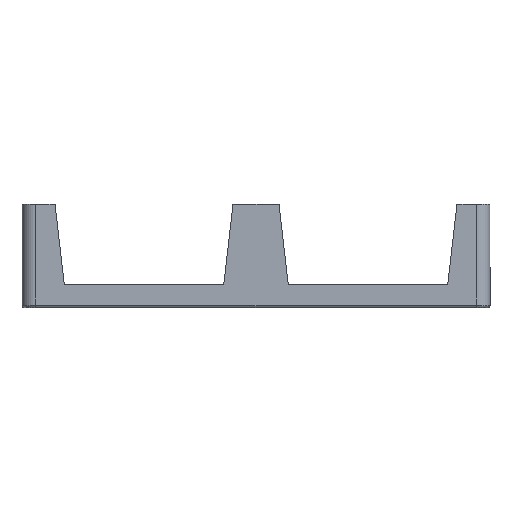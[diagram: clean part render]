
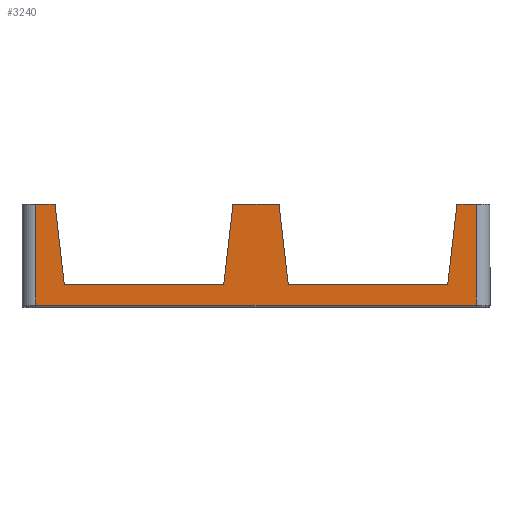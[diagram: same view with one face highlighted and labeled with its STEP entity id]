
A CAD part, left-side view. The second image highlights one B-rep face of the part: STEP entity #3240.
In plain terms, the highlighted planar face has unit normal (-1, 0, 0).
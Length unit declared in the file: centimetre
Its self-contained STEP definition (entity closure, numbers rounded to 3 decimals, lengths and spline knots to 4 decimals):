
#481=FACE_OUTER_BOUND($,#770,.T.);
#770=EDGE_LOOP($,(#2595,#2596,#2597,#2598,#2599,#2600,#2601,#2602,#2603,
#2604,#2605,#2606));
#1054=LINE($,#5288,#1322);
#1057=LINE($,#5294,#1325);
#1059=LINE($,#5297,#1327);
#1061=LINE($,#5301,#1329);
#1062=LINE($,#5304,#1330);
#1065=LINE($,#5313,#1333);
#1066=LINE($,#5315,#1334);
#1067=LINE($,#5317,#1335);
#1068=LINE($,#5319,#1336);
#1069=LINE($,#5321,#1337);
#1070=LINE($,#5323,#1338);
#1071=LINE($,#5324,#1339);
#1322=VECTOR($,#4274,1.7515);
#1325=VECTOR($,#4279,1.7515);
#1327=VECTOR($,#4283,3.462);
#1329=VECTOR($,#4287,1.);
#1330=VECTOR($,#4290,0.418);
#1333=VECTOR($,#4299,1.7515);
#1334=VECTOR($,#4300,3.462);
#1335=VECTOR($,#4301,1.7515);
#1336=VECTOR($,#4302,0.418);
#1337=VECTOR($,#4303,2.19);
#1338=VECTOR($,#4304,9.56);
#1339=VECTOR($,#4305,2.19);
#1654=VERTEX_POINT($,#5285);
#1655=VERTEX_POINT($,#5287);
#1656=VERTEX_POINT($,#5291);
#1657=VERTEX_POINT($,#5293);
#1658=VERTEX_POINT($,#5299);
#1659=VERTEX_POINT($,#5303);
#1662=VERTEX_POINT($,#5312);
#1663=VERTEX_POINT($,#5314);
#1664=VERTEX_POINT($,#5316);
#1665=VERTEX_POINT($,#5318);
#1666=VERTEX_POINT($,#5320);
#1667=VERTEX_POINT($,#5322);
#2001=EDGE_CURVE($,#1655,#1654,#1054,.T.);
#2004=EDGE_CURVE($,#1657,#1656,#1057,.T.);
#2006=EDGE_CURVE($,#1654,#1657,#1059,.T.);
#2008=EDGE_CURVE($,#1658,#1656,#1061,.F.);
#2009=EDGE_CURVE($,#1655,#1659,#1062,.F.);
#2014=EDGE_CURVE($,#1658,#1662,#1065,.T.);
#2015=EDGE_CURVE($,#1662,#1663,#1066,.T.);
#2016=EDGE_CURVE($,#1663,#1664,#1067,.T.);
#2017=EDGE_CURVE($,#1665,#1664,#1068,.F.);
#2018=EDGE_CURVE($,#1666,#1665,#1069,.T.);
#2019=EDGE_CURVE($,#1667,#1666,#1070,.T.);
#2020=EDGE_CURVE($,#1659,#1667,#1071,.T.);
#2595=ORIENTED_EDGE($,*,*,#2001,.T.);
#2596=ORIENTED_EDGE($,*,*,#2006,.T.);
#2597=ORIENTED_EDGE($,*,*,#2004,.T.);
#2598=ORIENTED_EDGE($,*,*,#2008,.F.);
#2599=ORIENTED_EDGE($,*,*,#2014,.T.);
#2600=ORIENTED_EDGE($,*,*,#2015,.T.);
#2601=ORIENTED_EDGE($,*,*,#2016,.T.);
#2602=ORIENTED_EDGE($,*,*,#2017,.F.);
#2603=ORIENTED_EDGE($,*,*,#2018,.F.);
#2604=ORIENTED_EDGE($,*,*,#2019,.F.);
#2605=ORIENTED_EDGE($,*,*,#2020,.F.);
#2606=ORIENTED_EDGE($,*,*,#2009,.F.);
#3075=PLANE($,#3551);
#3240=ADVANCED_FACE($,(#481),#3075,.F.);
#3551=AXIS2_PLACEMENT_3D($,#5311,#4297,#4298);
#4274=DIRECTION($,(0.,0.114,-0.993));
#4279=DIRECTION($,(0.,0.114,0.993));
#4283=DIRECTION($,(0.,1.,0.));
#4287=DIRECTION($,(0.,1.,0.));
#4290=DIRECTION($,(0.,1.,0.));
#4297=DIRECTION('center_axis',(1.,0.,0.));
#4298=DIRECTION('ref_axis',(0.,0.,-1.));
#4299=DIRECTION($,(0.,0.114,-0.993));
#4300=DIRECTION($,(0.,1.,0.));
#4301=DIRECTION($,(0.,0.114,0.993));
#4302=DIRECTION($,(0.,1.,0.));
#4303=DIRECTION($,(0.,0.,1.));
#4304=DIRECTION($,(0.,1.,0.));
#4305=DIRECTION($,(0.,0.,-1.));
#5285=CARTESIAN_POINT('',(7.144,-74.135,-0.4095));
#5287=CARTESIAN_POINT('',(7.144,-74.335,1.3305));
#5288=CARTESIAN_POINT($,(7.144,-74.1809,-0.0103));
#5291=CARTESIAN_POINT('',(7.144,-70.473,1.3305));
#5293=CARTESIAN_POINT('',(7.144,-70.673,-0.4095));
#5294=CARTESIAN_POINT($,(7.144,-70.5954,0.2655));
#5297=CARTESIAN_POINT($,(7.144,-69.973,-0.4095));
#5299=CARTESIAN_POINT('',(7.144,-69.473,1.3305));
#5301=CARTESIAN_POINT($,(7.144,-69.973,1.3305));
#5303=CARTESIAN_POINT('',(7.144,-74.753,1.3305));
#5304=CARTESIAN_POINT($,(7.144,-69.973,1.3305));
#5311=CARTESIAN_POINT('Origin',(7.144,-69.973,-0.0295));
#5312=CARTESIAN_POINT('',(7.144,-69.273,-0.4095));
#5313=CARTESIAN_POINT($,(7.144,-69.3506,0.2655));
#5314=CARTESIAN_POINT('',(7.144,-65.811,-0.4095));
#5315=CARTESIAN_POINT($,(7.144,-69.973,-0.4095));
#5316=CARTESIAN_POINT('',(7.144,-65.611,1.3305));
#5317=CARTESIAN_POINT($,(7.144,-65.7651,-0.0103));
#5318=CARTESIAN_POINT('',(7.144,-65.193,1.3305));
#5319=CARTESIAN_POINT($,(7.144,-69.973,1.3305));
#5320=CARTESIAN_POINT('',(7.144,-65.193,-0.8595));
#5321=CARTESIAN_POINT($,(7.144,-65.193,-0.0295));
#5322=CARTESIAN_POINT('',(7.144,-74.753,-0.8595));
#5323=CARTESIAN_POINT($,(7.144,-69.973,-0.8595));
#5324=CARTESIAN_POINT($,(7.144,-74.753,-0.0295));
